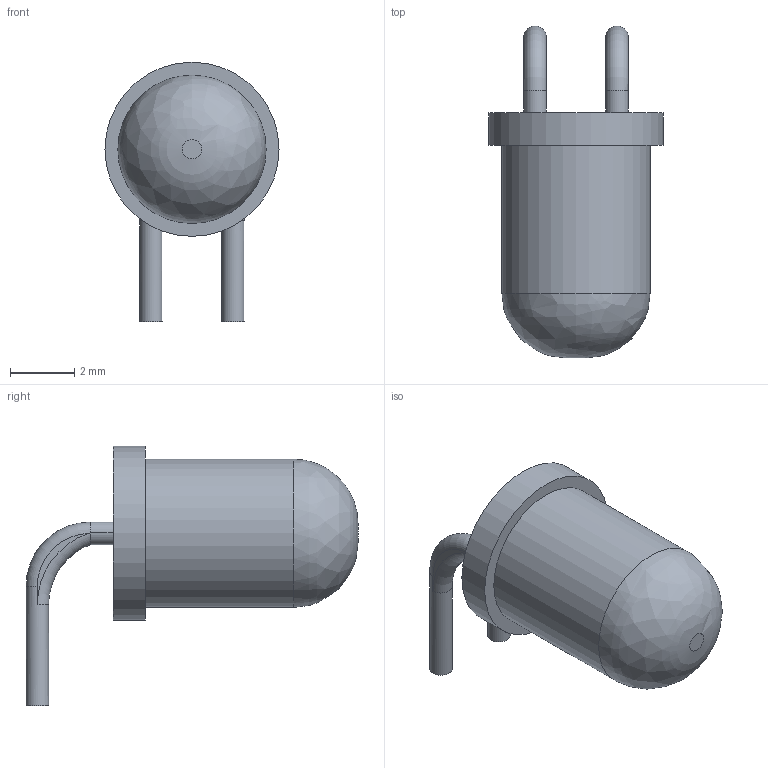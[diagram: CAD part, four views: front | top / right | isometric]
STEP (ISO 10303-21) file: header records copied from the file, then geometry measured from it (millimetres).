
FILE_DESCRIPTION(/* description */ (''),/* implementation_level */ '2;1');
FILE_NAME(/* name */ 'C:/Users/nmtel/OneDrive/Desktop/LED, 5mm, Orange (RA) v3.step',/* time_stamp */ '2021-06-13T06:43:05+03:00',/* author */ (''),/* organization */ (''),/* preprocessor_version */ 'ST-DEVELOPER v18.1',/* originating_system */ 'Autodesk Translation Framework v10.9.0.1377',/* authorisation */ '');
FILE_SCHEMA (('AUTOMOTIVE_DESIGN { 1 0 10303 214 3 1 1 }'));
Length unit declared in the file: millimetre
Products named in the file (1): LED, 5mm, Orange (RA)
Bounding box: 5.4 x 10.3 x 8.05 mm (x, y, z)
Volume: 128.6 mm3; surface area: 177.8 mm2
Topology: 3 solids, 3 shells, 26 faces, 53 edges, 34 vertices
Faces by surface type: plane 11, cylinder 6, bspline 5, torus 4
Full cylindrical faces by diameter (mm): 0.7 x2, 4.6 x1, 5.4 x1
Entity records: 891 total; most frequent: CARTESIAN_POINT 308, DIRECTION 112, ORIENTED_EDGE 106, EDGE_CURVE 53, AXIS2_PLACEMENT_3D 49, VERTEX_POINT 34, EDGE_LOOP 27, CIRCLE 27
